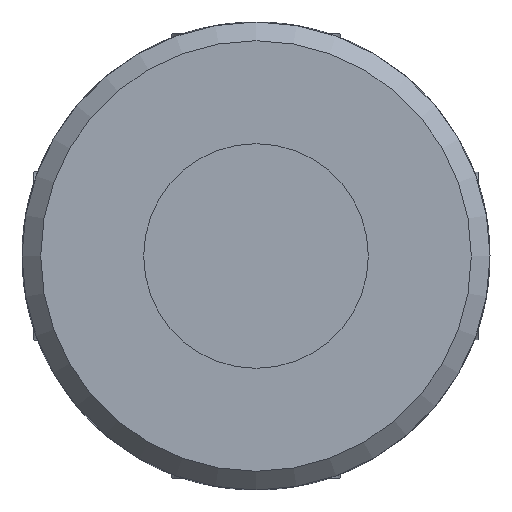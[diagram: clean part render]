
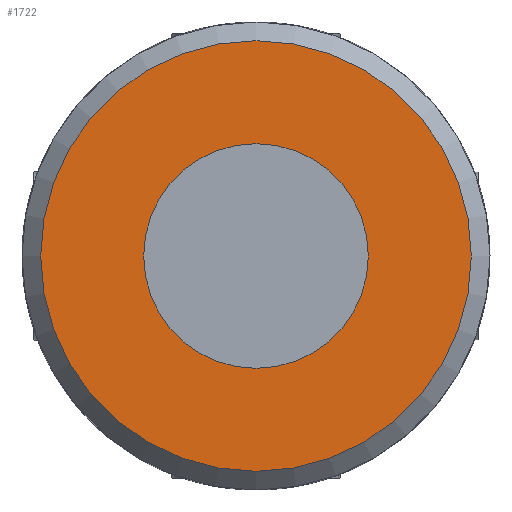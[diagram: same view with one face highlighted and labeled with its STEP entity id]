
A CAD part, front view. The second image highlights one B-rep face of the part: STEP entity #1722.
In plain terms, the highlighted planar face has unit normal (0, -1, 0).
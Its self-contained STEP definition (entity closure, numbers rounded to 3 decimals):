
#200=PLANE('',#1903);
#372=FACE_BOUND('',#605,.T.);
#460=FACE_OUTER_BOUND('',#604,.T.);
#604=EDGE_LOOP('',(#1503));
#605=EDGE_LOOP('',(#1504));
#704=CIRCLE('',#1898,6.);
#706=CIRCLE('',#1901,11.5);
#850=VERTEX_POINT('',#3319);
#852=VERTEX_POINT('',#3324);
#1069=EDGE_CURVE('',#850,#850,#704,.T.);
#1071=EDGE_CURVE('',#852,#852,#706,.T.);
#1503=ORIENTED_EDGE('',*,*,#1071,.F.);
#1504=ORIENTED_EDGE('',*,*,#1069,.T.);
#1722=ADVANCED_FACE('',(#460,#372),#200,.F.);
#1898=AXIS2_PLACEMENT_3D('',#3320,#2284,#2285);
#1901=AXIS2_PLACEMENT_3D('',#3325,#2290,#2291);
#1903=AXIS2_PLACEMENT_3D('',#3541,#2298,#2299);
#2284=DIRECTION('center_axis',(0.,1.,0.));
#2285=DIRECTION('ref_axis',(-1.,0.,0.));
#2290=DIRECTION('center_axis',(0.,1.,0.));
#2291=DIRECTION('ref_axis',(1.,0.,0.));
#2298=DIRECTION('center_axis',(0.,1.,0.));
#2299=DIRECTION('ref_axis',(0.,0.,1.));
#3319=CARTESIAN_POINT('',(6.,-34.5,0.));
#3320=CARTESIAN_POINT('Origin',(0.,-34.5,0.));
#3324=CARTESIAN_POINT('',(-11.5,-34.5,0.));
#3325=CARTESIAN_POINT('Origin',(0.,-34.5,0.));
#3541=CARTESIAN_POINT('Origin',(0.,-34.5,0.));
